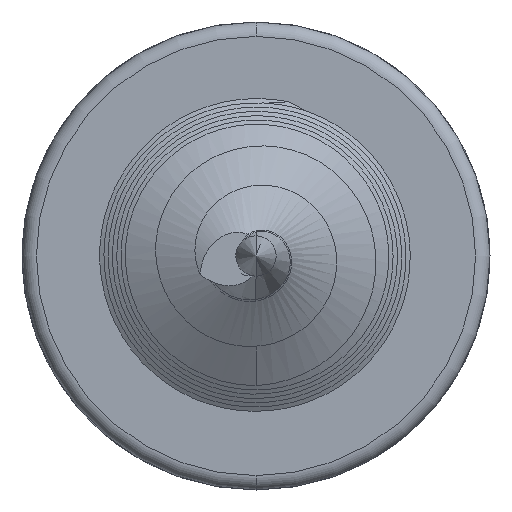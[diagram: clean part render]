
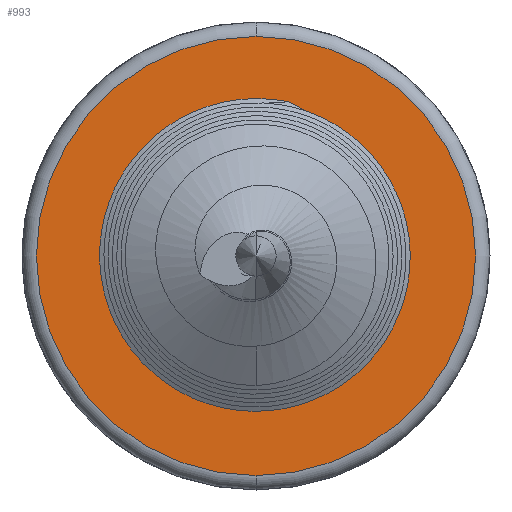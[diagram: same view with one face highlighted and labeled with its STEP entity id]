
A CAD part, front view. The second image highlights one B-rep face of the part: STEP entity #993.
In plain terms, the highlighted planar face has unit normal (0, -1, 0).
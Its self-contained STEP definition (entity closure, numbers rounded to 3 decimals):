
#196 = CARTESIAN_POINT ( 'NONE',  ( 0.455, 0., 2.141 ) ) ;
#201 = EDGE_CURVE ( 'NONE', #2713, #7568, #4250, .T. ) ;
#220 = DIRECTION ( 'NONE',  ( 0., 0., 1. ) ) ;
#316 = CARTESIAN_POINT ( 'NONE',  ( -1.144, 0., 1.427 ) ) ;
#352 = DIRECTION ( 'NONE',  ( 0., 1., 0. ) ) ;
#658 = B_SPLINE_CURVE_WITH_KNOTS ( 'NONE', 3,
 ( #6127, #2257, #2884, #4206, #6804, #6848, #3572, #1037, #4982, #6171, #5540, #8119 ),
 .UNSPECIFIED., .F., .F.,
 ( 4, 2, 2, 2, 2, 4 ),
 ( 0., 0.001, 0.001, 0.002, 0.002, 0.003 ),
 .UNSPECIFIED. ) ;
#726 = VERTEX_POINT ( 'NONE', #7858 ) ;
#788 = AXIS2_PLACEMENT_3D ( 'NONE', #3997, #4634, #7863 ) ;
#942 = VERTEX_POINT ( 'NONE', #1999 ) ;
#960 = CARTESIAN_POINT ( 'NONE',  ( -1.482, 0., 0.597 ) ) ;
#993 = ADVANCED_FACE ( 'NONE', ( #2203, #2122 ), #4196, .F. ) ;
#1003 = AXIS2_PLACEMENT_3D ( 'NONE', #1761, #3630, #4308 ) ;
#1037 = CARTESIAN_POINT ( 'NONE',  ( 1.69, 0., 0.418 ) ) ;
#1124 = CARTESIAN_POINT ( 'NONE',  ( -0.721, 0., 1.804 ) ) ;
#1196 = EDGE_LOOP ( 'NONE', ( #4271, #6120 ) ) ;
#1706 = CARTESIAN_POINT ( 'NONE',  ( -1.468, 0., 0.709 ) ) ;
#1752 = CARTESIAN_POINT ( 'NONE',  ( -1.319, 0., 1.135 ) ) ;
#1761 = CARTESIAN_POINT ( 'NONE',  ( 0., 0., 0. ) ) ;
#1933 = AXIS2_PLACEMENT_3D ( 'NONE', #7386, #352, #220 ) ;
#1944 = DIRECTION ( 'NONE',  ( 0., 0., 1. ) ) ;
#1956 = EDGE_LOOP ( 'NONE', ( #7589, #4566, #2876, #7725 ) ) ;
#1999 = CARTESIAN_POINT ( 'NONE',  ( 1.589, 0., -0.162 ) ) ;
#2017 = DIRECTION ( 'NONE',  ( 0., 0., 1. ) ) ;
#2049 = CARTESIAN_POINT ( 'NONE',  ( 0., 0., -3.05 ) ) ;
#2122 = FACE_BOUND ( 'NONE', #1956, .T. ) ;
#2203 = FACE_OUTER_BOUND ( 'NONE', #1196, .T. ) ;
#2257 = CARTESIAN_POINT ( 'NONE',  ( 0.675, 0., 2.05 ) ) ;
#2713 = VERTEX_POINT ( 'NONE', #8378 ) ;
#2803 = EDGE_CURVE ( 'NONE', #726, #3964, #5108, .T. ) ;
#2876 = ORIENTED_EDGE ( 'NONE', *, *, #201, .T. ) ;
#2884 = CARTESIAN_POINT ( 'NONE',  ( 0.874, 0., 1.926 ) ) ;
#2933 = CIRCLE ( 'NONE', #4570, 3.05 ) ;
#3015 = CARTESIAN_POINT ( 'NONE',  ( -1.482, 0., 0.597 ) ) ;
#3371 = DIRECTION ( 'NONE',  ( 0., -1., 0. ) ) ;
#3549 = VERTEX_POINT ( 'NONE', #196 ) ;
#3572 = CARTESIAN_POINT ( 'NONE',  ( 1.66, 0., 0.773 ) ) ;
#3615 = CARTESIAN_POINT ( 'NONE',  ( -0.99, 0., 1.597 ) ) ;
#3630 = DIRECTION ( 'NONE',  ( 0., 1., 0. ) ) ;
#3659 = CARTESIAN_POINT ( 'NONE',  ( -1.441, 0., 0.82 ) ) ;
#3767 = EDGE_CURVE ( 'NONE', #942, #2713, #5663, .T. ) ;
#3964 = VERTEX_POINT ( 'NONE', #2049 ) ;
#3997 = CARTESIAN_POINT ( 'NONE',  ( 0., 0., 0. ) ) ;
#4196 = PLANE ( 'NONE',  #1933 ) ;
#4206 = CARTESIAN_POINT ( 'NONE',  ( 1.229, 0., 1.608 ) ) ;
#4250 = CIRCLE ( 'NONE', #1003, 1.597 ) ;
#4252 = CARTESIAN_POINT ( 'NONE',  ( -0.426, 0., 1.967 ) ) ;
#4271 = ORIENTED_EDGE ( 'NONE', *, *, #2803, .T. ) ;
#4308 = DIRECTION ( 'NONE',  ( 0., 0., 1. ) ) ;
#4338 = CARTESIAN_POINT ( 'NONE',  ( 0.228, 0., 2.145 ) ) ;
#4504 = EDGE_CURVE ( 'NONE', #3964, #726, #2933, .T. ) ;
#4566 = ORIENTED_EDGE ( 'NONE', *, *, #3767, .T. ) ;
#4570 = AXIS2_PLACEMENT_3D ( 'NONE', #7758, #5311, #1944 ) ;
#4634 = DIRECTION ( 'NONE',  ( 0., 1., 0. ) ) ;
#4801 = CARTESIAN_POINT ( 'NONE',  ( 0.455, 0., 2.141 ) ) ;
#4939 = CARTESIAN_POINT ( 'NONE',  ( -1.367, 0., 1.033 ) ) ;
#4982 = CARTESIAN_POINT ( 'NONE',  ( 1.687, 0., 0.3 ) ) ;
#5108 = CIRCLE ( 'NONE', #5385, 3.05 ) ;
#5311 = DIRECTION ( 'NONE',  ( 0., -1., 0. ) ) ;
#5385 = AXIS2_PLACEMENT_3D ( 'NONE', #7826, #3371, #2017 ) ;
#5540 = CARTESIAN_POINT ( 'NONE',  ( 1.63, 0., -0.05 ) ) ;
#5663 = CIRCLE ( 'NONE', #788, 1.597 ) ;
#6120 = ORIENTED_EDGE ( 'NONE', *, *, #4504, .T. ) ;
#6127 = CARTESIAN_POINT ( 'NONE',  ( 0.455, 0., 2.141 ) ) ;
#6171 = CARTESIAN_POINT ( 'NONE',  ( 1.658, 0., 0.067 ) ) ;
#6258 = CARTESIAN_POINT ( 'NONE',  ( -0.626, 0., 1.864 ) ) ;
#6476 = EDGE_CURVE ( 'NONE', #7568, #3549, #8136, .T. ) ;
#6611 = EDGE_CURVE ( 'NONE', #3549, #942, #658, .T. ) ;
#6804 = CARTESIAN_POINT ( 'NONE',  ( 1.374, 0., 1.423 ) ) ;
#6848 = CARTESIAN_POINT ( 'NONE',  ( 1.593, 0., 1. ) ) ;
#7386 = CARTESIAN_POINT ( 'NONE',  ( 0., 0., 0. ) ) ;
#7524 = CARTESIAN_POINT ( 'NONE',  ( 0.002, 0., 2.113 ) ) ;
#7568 = VERTEX_POINT ( 'NONE', #960 ) ;
#7589 = ORIENTED_EDGE ( 'NONE', *, *, #6611, .T. ) ;
#7725 = ORIENTED_EDGE ( 'NONE', *, *, #6476, .T. ) ;
#7758 = CARTESIAN_POINT ( 'NONE',  ( 0., 0., 0. ) ) ;
#7826 = CARTESIAN_POINT ( 'NONE',  ( 0., 0., 0. ) ) ;
#7858 = CARTESIAN_POINT ( 'NONE',  ( 0., 0., 3.05 ) ) ;
#7863 = DIRECTION ( 'NONE',  ( 0., 0., 1. ) ) ;
#8070 = CARTESIAN_POINT ( 'NONE',  ( -0.32, 0., 2.011 ) ) ;
#8119 = CARTESIAN_POINT ( 'NONE',  ( 1.589, 0., -0.162 ) ) ;
#8136 = B_SPLINE_CURVE_WITH_KNOTS ( 'NONE', 3,
 ( #3015, #1706, #3659, #4939, #1752, #316, #3615, #1124, #6258, #4252, #8070, #7524, #4338, #4801 ),
 .UNSPECIFIED., .F., .F.,
 ( 4, 2, 2, 2, 2, 2, 4 ),
 ( 0., 0.001, 0.001, 0.002, 0.002, 0.002, 0.003 ),
 .UNSPECIFIED. ) ;
#8378 = CARTESIAN_POINT ( 'NONE',  ( 0., 0., -1.597 ) ) ;
